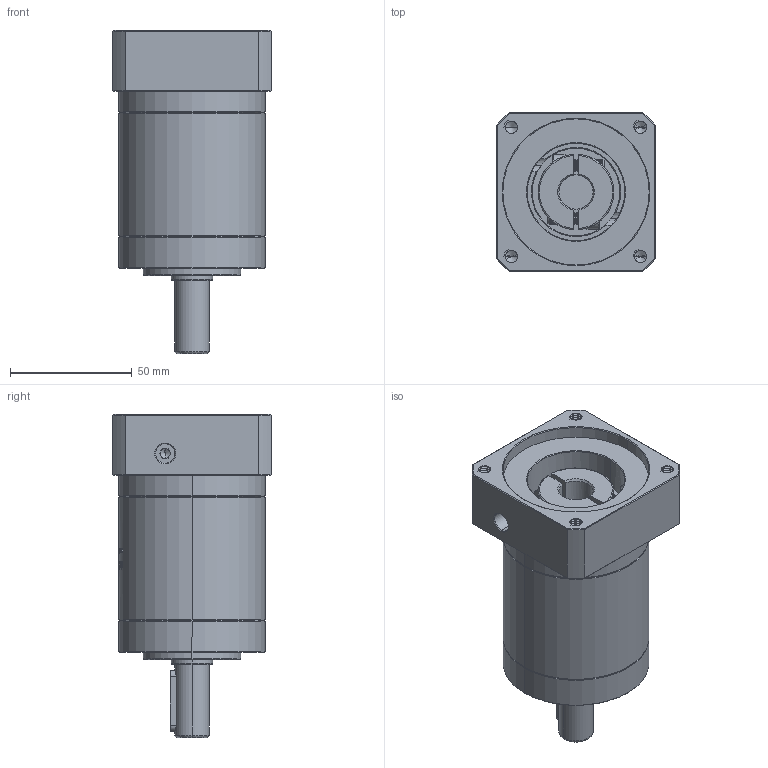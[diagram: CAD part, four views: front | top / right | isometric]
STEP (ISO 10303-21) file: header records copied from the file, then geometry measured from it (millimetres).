
FILE_DESCRIPTION (( 'STEP AP214' ), '1' );
FILE_NAME ('ZE60-D14-L2-14-60-75-M6.STEP', '2022-04-17T15:35:41', ( '' ), ( 'Microsoft' ), 'SwSTEP 2.0', 'SolidWorks 2016', '' );
FILE_SCHEMA (( 'AUTOMOTIVE_DESIGN' ));
Length unit declared in the file: millimetre
Products named in the file (1): ZE60-D14-L2-14-60-75-M6
Bounding box: 65 x 65 x 132.5 mm (x, y, z)
Volume: 274476.2 mm3; surface area: 49176.3 mm2
Topology: 6 solids, 6 shells, 1747 faces, 4743 edges, 3069 vertices
Faces by surface type: plane 737, cylinder 459, bspline 311, cone 220, torus 20
Entity records: 105441 total; most frequent: CARTESIAN_POINT 46707, ORIENTED_EDGE 9442, DIRECTION 6743, EDGE_CURVE 4721, VERTEX_POINT 3069, LINE 2359, VECTOR 2359, AXIS2_PLACEMENT_3D 2192
